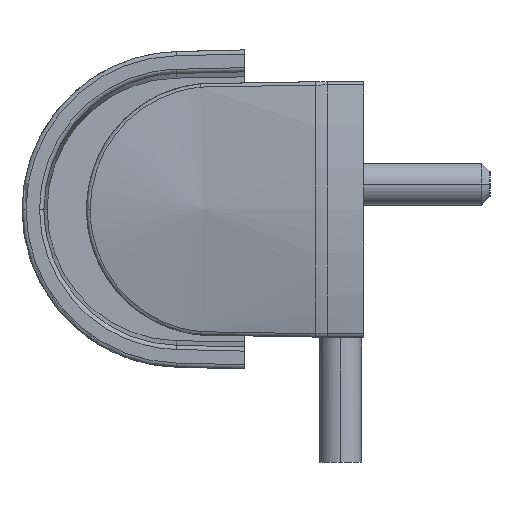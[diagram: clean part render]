
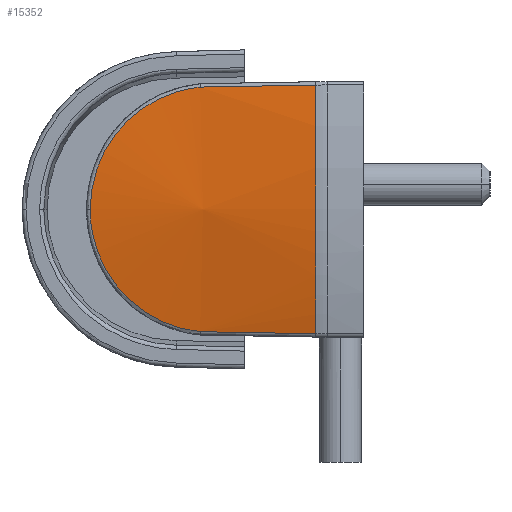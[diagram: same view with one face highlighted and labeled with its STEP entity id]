
A CAD part, left-side view. The second image highlights one B-rep face of the part: STEP entity #15352.
In plain terms, the highlighted conical face has half-angle 8.041 degrees and reference radius 73.007 mm.
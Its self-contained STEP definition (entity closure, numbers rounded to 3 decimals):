
#813=CARTESIAN_POINT('',(-71.502,5.254,-14.52));
#815=CARTESIAN_POINT('',(-71.116,18.317,0.));
#823=CARTESIAN_POINT('',(-71.502,5.254,14.52));
#843=CARTESIAN_POINT('',(-71.502,5.254,-14.52));
#844=CARTESIAN_POINT('',(-71.443,5.733,-14.472));
#845=CARTESIAN_POINT('',(-71.336,6.676,-14.33));
#846=CARTESIAN_POINT('',(-71.208,8.045,-13.983));
#847=CARTESIAN_POINT('',(-71.109,9.379,-13.502));
#848=CARTESIAN_POINT('',(-71.039,10.651,-12.898));
#849=CARTESIAN_POINT('',(-70.994,11.863,-12.169));
#850=CARTESIAN_POINT('',(-70.971,12.997,-11.328));
#851=CARTESIAN_POINT('',(-70.967,14.053,-10.37));
#852=CARTESIAN_POINT('',(-70.977,15.01,-9.315));
#853=CARTESIAN_POINT('',(-70.998,15.855,-8.178));
#854=CARTESIAN_POINT('',(-71.024,16.594,-6.95));
#855=CARTESIAN_POINT('',(-71.052,17.211,-5.65));
#856=CARTESIAN_POINT('',(-71.078,17.695,-4.308));
#857=CARTESIAN_POINT('',(-71.099,18.051,-2.905));
#858=CARTESIAN_POINT('',(-71.113,18.267,-1.474));
#859=CARTESIAN_POINT('',(-71.116,18.316,
-0.495));
#860=CARTESIAN_POINT('',(-71.116,18.317,0.));
#862=CARTESIAN_POINT('',(-71.116,18.317,0.));
#863=CARTESIAN_POINT('',(-71.116,18.316,0.531));
#864=CARTESIAN_POINT('',(-71.112,18.259,1.58));
#865=CARTESIAN_POINT('',(-71.097,18.013,3.101));
#866=CARTESIAN_POINT('',(-71.072,17.601,4.616));
#867=CARTESIAN_POINT('',(-71.044,17.052,6.028));
#868=CARTESIAN_POINT('',(-71.014,16.332,7.425));
#869=CARTESIAN_POINT('',(-70.987,15.485,8.708));
#870=CARTESIAN_POINT('',(-70.97,14.545,9.859));
#871=CARTESIAN_POINT('',(-70.967,13.441,10.953));
#872=CARTESIAN_POINT('',(-70.983,12.262,11.895));
#873=CARTESIAN_POINT('',(-71.023,11.004,12.706));
#874=CARTESIAN_POINT('',(-71.09,9.668,13.383));
#875=CARTESIAN_POINT('',(-71.191,8.242,13.924));
#876=CARTESIAN_POINT('',(-71.321,6.808,14.306));
#877=CARTESIAN_POINT('',(-71.437,5.78,14.466));
#878=CARTESIAN_POINT('',(-71.502,5.254,14.52));
#880=CARTESIAN_POINT('',(-71.502,5.254,14.52));
#881=CARTESIAN_POINT('',(-71.716,3.731,14.546));
#882=CARTESIAN_POINT('',(-72.145,0.685,14.599));
#883=CARTESIAN_POINT('',(-72.787,-3.885,14.678));
#884=CARTESIAN_POINT('',(-73.216,-6.931,14.73));
#885=CARTESIAN_POINT('',(-73.43,-8.454,14.757));
#887=CARTESIAN_POINT('',(-73.43,-8.454,
-14.757));
#888=CARTESIAN_POINT('',(-73.216,-6.931,
-14.73));
#889=CARTESIAN_POINT('',(-72.787,-3.885,
-14.678));
#890=CARTESIAN_POINT('',(-72.145,0.685,
-14.599));
#891=CARTESIAN_POINT('',(-71.716,3.731,-14.546));
#892=CARTESIAN_POINT('',(-71.502,5.254,-14.52));
#894=CARTESIAN_POINT('',(0.,-8.454,0.));
#895=DIRECTION('',(0.,1.,0.));
#896=DIRECTION('',(-0.98,0.,-0.197));
#897=AXIS2_PLACEMENT_3D('',#894,#895,#896);
#899=CARTESIAN_POINT('',(0.,-8.454,0.));
#900=DIRECTION('',(0.,1.,0.));
#901=DIRECTION('',(-0.995,0.,-0.105));
#902=AXIS2_PLACEMENT_3D('',#899,#900,#901);
#904=CARTESIAN_POINT('',(0.,-8.454,0.));
#905=DIRECTION('',(0.,1.,0.));
#906=DIRECTION('',(-1.,0.,0.));
#907=AXIS2_PLACEMENT_3D('',#904,#905,#906);
#12112=VERTEX_POINT('',#813);
#12113=VERTEX_POINT('',#887);
#12114=VERTEX_POINT('',#815);
#12115=VERTEX_POINT('',#823);
#12116=VERTEX_POINT('',#885);
#12119=CARTESIAN_POINT('',(-74.898,-8.454,0.));
#12120=VERTEX_POINT('',#12119);
#12121=CARTESIAN_POINT('',(-74.487,-8.454,
-7.832));
#12122=VERTEX_POINT('',#12121);
#15335=CARTESIAN_POINT('',(0.,4.932,0.));
#15336=DIRECTION('',(0.,-1.,0.));
#15337=DIRECTION('',(-1.,0.,0.));
#15338=AXIS2_PLACEMENT_3D('',#15335,#15336,#15337);
#15339=CONICAL_SURFACE('',#15338,73.007,8.041);
#15340=ORIENTED_EDGE('',*,*,#15172,.T.);
#15341=ORIENTED_EDGE('',*,*,#15314,.T.);
#15342=ORIENTED_EDGE('',*,*,#15324,.T.);
#15344=ORIENTED_EDGE('',*,*,#15343,.F.);
#15346=ORIENTED_EDGE('',*,*,#15345,.F.);
#15348=ORIENTED_EDGE('',*,*,#15347,.F.);
#15349=ORIENTED_EDGE('',*,*,#15027,.T.);
#15350=EDGE_LOOP('',(#15340,#15341,#15342,#15344,#15346,#15348,#15349));
#15351=FACE_OUTER_BOUND('',#15350,.F.);
#15352=ADVANCED_FACE('',(#15351),#15339,.T.);
#861=B_SPLINE_CURVE_WITH_KNOTS('',3,(#843,#844,#845,#846,#847,#848,#849,#850,
#851,#852,#853,#854,#855,#856,#857,#858,#859,#860),.UNSPECIFIED.,.F.,.F.,(4,1,1,
1,1,1,1,1,1,1,1,1,1,1,1,4),(0.,0.067,0.133,0.2,
0.267,0.333,0.4,0.467,0.533,
0.6,0.667,0.733,0.8,0.867,
0.933,1.),.UNSPECIFIED.);
#879=B_SPLINE_CURVE_WITH_KNOTS('',3,(#862,#863,#864,#865,#866,#867,#868,#869,
#870,#871,#872,#873,#874,#875,#876,#877,#878),.UNSPECIFIED.,.F.,.F.,(4,1,1,1,1,
1,1,1,1,1,1,1,1,1,4),(0.,0.071,0.143,
0.214,0.286,0.357,0.429,0.5,
0.571,0.643,0.714,0.786,
0.857,0.929,1.),.UNSPECIFIED.);
#886=B_SPLINE_CURVE_WITH_KNOTS('',3,(#880,#881,#882,#883,#884,#885),
.UNSPECIFIED.,.F.,.F.,(4,1,1,4),(0.,0.333,0.667,1.),
.UNSPECIFIED.);
#893=B_SPLINE_CURVE_WITH_KNOTS('',3,(#887,#888,#889,#890,#891,#892),
.UNSPECIFIED.,.F.,.F.,(4,1,1,4),(0.,0.333,0.667,1.),
.UNSPECIFIED.);
#898=CIRCLE('',#897,74.898);
#903=CIRCLE('',#902,74.898);
#908=CIRCLE('',#907,74.898);
#15027=EDGE_CURVE('',#12113,#12112,#893,.T.);
#15172=EDGE_CURVE('',#12112,#12114,#861,.T.);
#15314=EDGE_CURVE('',#12114,#12115,#879,.T.);
#15324=EDGE_CURVE('',#12115,#12116,#886,.T.);
#15343=EDGE_CURVE('',#12120,#12116,#908,.T.);
#15345=EDGE_CURVE('',#12122,#12120,#903,.T.);
#15347=EDGE_CURVE('',#12113,#12122,#898,.T.);
